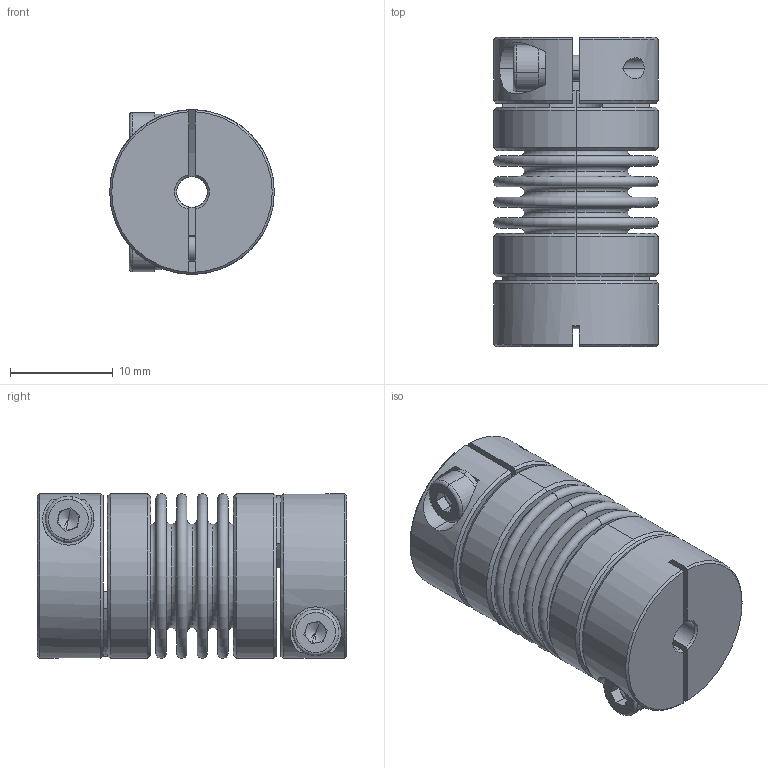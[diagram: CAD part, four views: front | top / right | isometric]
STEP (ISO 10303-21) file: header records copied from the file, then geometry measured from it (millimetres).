
FILE_DESCRIPTION (( 'STEP AP203' ), '1' );
FILE_NAME ('LB-B-D16L30-3-6.STEP', '2021-11-04T01:09:50', ( '' ), ( '' ), 'SwSTEP 2.0', 'SolidWorks 2018', '' );
FILE_SCHEMA (( 'CONFIG_CONTROL_DESIGN' ));
Length unit declared in the file: millimetre
Products named in the file (2): LB-B-D16L30-3-6; 零件1^LB-B-D16L30 波纹管联轴器-组装体
Assembly tree (1 placements, depth 2):
  LB-B-D16L30-3-6
    零件1^LB-B-D16L30 波纹管联轴器-组装体
Bounding box: 16 x 30.04 x 16 mm (x, y, z)
Volume: 3310.9 mm3; surface area: 6466.4 mm2
Topology: 1 solids, 1 shells, 254 faces, 586 edges, 362 vertices
Faces by surface type: plane 86, torus 68, cylinder 66, cone 34
Entity records: 7660 total; most frequent: CARTESIAN_POINT 1472, DIRECTION 1420, ORIENTED_EDGE 1164, AXIS2_PLACEMENT_3D 622, EDGE_CURVE 582, CIRCLE 364, VERTEX_POINT 362, EDGE_LOOP 296
